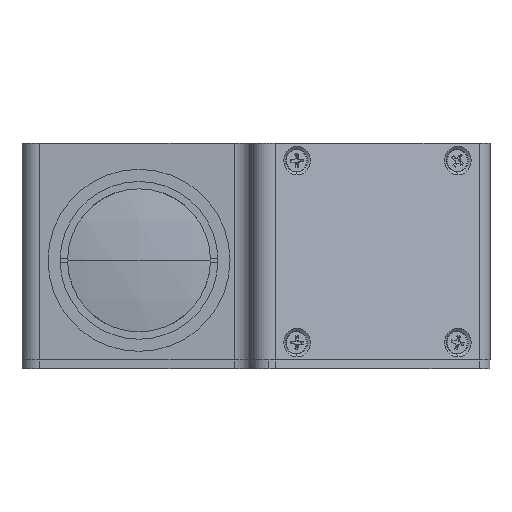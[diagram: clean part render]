
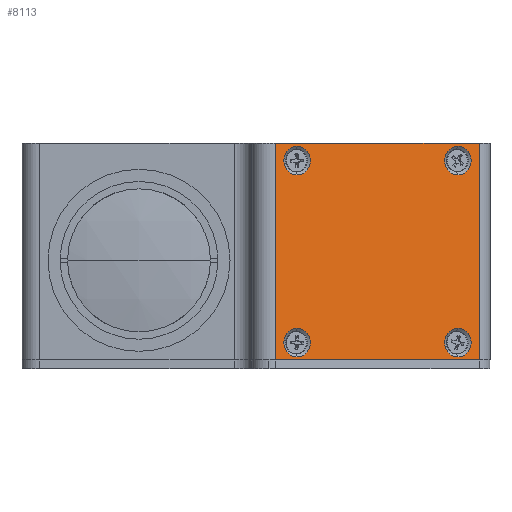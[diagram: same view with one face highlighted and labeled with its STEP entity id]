
A CAD part, left-side view. The second image highlights one B-rep face of the part: STEP entity #8113.
In plain terms, the highlighted planar face has unit normal (-0.927, -0.375, 0).
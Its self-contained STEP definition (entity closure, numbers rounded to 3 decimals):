
#103 = LINE ( 'NONE', #7636, #2807 ) ;
#141 = VERTEX_POINT ( 'NONE', #10943 ) ;
#258 = CARTESIAN_POINT ( 'NONE',  ( 25.939, -36.495, -19. ) ) ;
#388 = VERTEX_POINT ( 'NONE', #11618 ) ;
#543 = AXIS2_PLACEMENT_3D ( 'NONE', #9420, #10579, #3713 ) ;
#618 = CIRCLE ( 'NONE', #2804, 3.3 ) ;
#651 = DIRECTION ( 'NONE',  ( 0., 0., -1. ) ) ;
#758 = VERTEX_POINT ( 'NONE', #13243 ) ;
#841 = AXIS2_PLACEMENT_3D ( 'NONE', #6285, #14300, #7444 ) ;
#1083 = DIRECTION ( 'NONE',  ( 0., 0., 1. ) ) ;
#1415 = PLANE ( 'NONE',  #543 ) ;
#1424 = DIRECTION ( 'NONE',  ( 0., 0., 1. ) ) ;
#1708 = EDGE_CURVE ( 'NONE', #11753, #10468, #103, .T. ) ;
#1901 = EDGE_CURVE ( 'NONE', #11938, #141, #6382, .T. ) ;
#1932 = DIRECTION ( 'NONE',  ( 0., 0., 1. ) ) ;
#2092 = AXIS2_PLACEMENT_3D ( 'NONE', #6241, #14265, #7396 ) ;
#2187 = EDGE_CURVE ( 'NONE', #4565, #10931, #8881, .T. ) ;
#2292 = EDGE_CURVE ( 'NONE', #6637, #9248, #618, .T. ) ;
#2318 = CARTESIAN_POINT ( 'NONE',  ( 25.939, -36.495, -22.3 ) ) ;
#2661 = EDGE_CURVE ( 'NONE', #388, #7370, #4013, .T. ) ;
#2667 = DIRECTION ( 'NONE',  ( -0.927, -0.375, 0. ) ) ;
#2679 = EDGE_CURVE ( 'NONE', #11753, #3305, #9381, .T. ) ;
#2804 = AXIS2_PLACEMENT_3D ( 'NONE', #13128, #6230, #14254 ) ;
#2807 = VECTOR ( 'NONE', #1932, 1000. ) ;
#2947 = EDGE_CURVE ( 'NONE', #758, #10468, #9921, .T. ) ;
#2969 = EDGE_CURVE ( 'NONE', #758, #3305, #3473, .T. ) ;
#3305 = VERTEX_POINT ( 'NONE', #4604 ) ;
#3444 = AXIS2_PLACEMENT_3D ( 'NONE', #258, #8273, #1424 ) ;
#3473 = LINE ( 'NONE', #6375, #9206 ) ;
#3598 = EDGE_LOOP ( 'NONE', ( #5637, #5999 ) ) ;
#3689 = CARTESIAN_POINT ( 'NONE',  ( 40.923, -73.583, 19.7 ) ) ;
#3713 = DIRECTION ( 'NONE',  ( 0., 0., 1. ) ) ;
#3847 = CARTESIAN_POINT ( 'NONE',  ( 42.91, -78.498, -23. ) ) ;
#3921 = CARTESIAN_POINT ( 'NONE',  ( 40.923, -73.583, 23. ) ) ;
#4013 = CIRCLE ( 'NONE', #9195, 3.3 ) ;
#4565 = VERTEX_POINT ( 'NONE', #13555 ) ;
#4604 = CARTESIAN_POINT ( 'NONE',  ( 23.928, -31.516, -23. ) ) ;
#4758 = EDGE_LOOP ( 'NONE', ( #8003, #8509 ) ) ;
#4906 = FACE_OUTER_BOUND ( 'NONE', #11812, .T. ) ;
#4913 = EDGE_CURVE ( 'NONE', #7370, #388, #9900, .T. ) ;
#4986 = AXIS2_PLACEMENT_3D ( 'NONE', #5255, #13295, #6401 ) ;
#5065 = EDGE_LOOP ( 'NONE', ( #9954, #10511 ) ) ;
#5090 = DIRECTION ( 'NONE',  ( 0., 0., 1. ) ) ;
#5255 = CARTESIAN_POINT ( 'NONE',  ( 25.939, -36.495, 23. ) ) ;
#5273 = FACE_BOUND ( 'NONE', #5065, .T. ) ;
#5637 = ORIENTED_EDGE ( 'NONE', *, *, #2661, .F. ) ;
#5999 = ORIENTED_EDGE ( 'NONE', *, *, #4913, .F. ) ;
#6230 = DIRECTION ( 'NONE',  ( -0.927, -0.375, 0. ) ) ;
#6241 = CARTESIAN_POINT ( 'NONE',  ( 40.923, -73.583, -19. ) ) ;
#6285 = CARTESIAN_POINT ( 'NONE',  ( 25.939, -36.495, -19. ) ) ;
#6375 = CARTESIAN_POINT ( 'NONE',  ( 23.928, -31.516, 2. ) ) ;
#6382 = CIRCLE ( 'NONE', #4986, 3.3 ) ;
#6401 = DIRECTION ( 'NONE',  ( 0., 0., 1. ) ) ;
#6532 = VECTOR ( 'NONE', #12143, 1000. ) ;
#6637 = VERTEX_POINT ( 'NONE', #10264 ) ;
#7370 = VERTEX_POINT ( 'NONE', #3689 ) ;
#7394 = AXIS2_PLACEMENT_3D ( 'NONE', #14795, #7944, #1083 ) ;
#7396 = DIRECTION ( 'NONE',  ( 0., 0., 1. ) ) ;
#7444 = DIRECTION ( 'NONE',  ( 0., 0., 1. ) ) ;
#7636 = CARTESIAN_POINT ( 'NONE',  ( 42.91, -78.498, 2. ) ) ;
#7944 = DIRECTION ( 'NONE',  ( -0.927, -0.375, 0. ) ) ;
#8003 = ORIENTED_EDGE ( 'NONE', *, *, #2292, .F. ) ;
#8113 = ADVANCED_FACE ( 'NONE', ( #13714, #11017, #10631, #5273, #4906 ), #1415, .T. ) ;
#8200 = CARTESIAN_POINT ( 'NONE',  ( 40.923, -73.583, -22.3 ) ) ;
#8218 = CIRCLE ( 'NONE', #2092, 3.3 ) ;
#8273 = DIRECTION ( 'NONE',  ( -0.927, -0.375, 0. ) ) ;
#8509 = ORIENTED_EDGE ( 'NONE', *, *, #10183, .F. ) ;
#8857 = CARTESIAN_POINT ( 'NONE',  ( 25.939, -36.495, 26.3 ) ) ;
#8881 = CIRCLE ( 'NONE', #3444, 3.3 ) ;
#9002 = ORIENTED_EDGE ( 'NONE', *, *, #2187, .F. ) ;
#9195 = AXIS2_PLACEMENT_3D ( 'NONE', #9505, #2667, #10675 ) ;
#9206 = VECTOR ( 'NONE', #651, 1000. ) ;
#9230 = CARTESIAN_POINT ( 'NONE',  ( 42.91, -78.498, 27. ) ) ;
#9248 = VERTEX_POINT ( 'NONE', #8200 ) ;
#9275 = CIRCLE ( 'NONE', #841, 3.3 ) ;
#9381 = LINE ( 'NONE', #11941, #12148 ) ;
#9420 = CARTESIAN_POINT ( 'NONE',  ( 33.562, -55.363, 2. ) ) ;
#9505 = CARTESIAN_POINT ( 'NONE',  ( 40.923, -73.583, 23. ) ) ;
#9763 = ORIENTED_EDGE ( 'NONE', *, *, #14379, .F. ) ;
#9900 = CIRCLE ( 'NONE', #14367, 3.3 ) ;
#9921 = LINE ( 'NONE', #10945, #6532 ) ;
#9954 = ORIENTED_EDGE ( 'NONE', *, *, #1901, .F. ) ;
#10183 = EDGE_CURVE ( 'NONE', #9248, #6637, #8218, .T. ) ;
#10264 = CARTESIAN_POINT ( 'NONE',  ( 40.923, -73.583, -15.7 ) ) ;
#10468 = VERTEX_POINT ( 'NONE', #9230 ) ;
#10481 = EDGE_LOOP ( 'NONE', ( #9002, #9763 ) ) ;
#10511 = ORIENTED_EDGE ( 'NONE', *, *, #12039, .F. ) ;
#10579 = DIRECTION ( 'NONE',  ( -0.927, -0.375, 0. ) ) ;
#10631 = FACE_BOUND ( 'NONE', #10481, .T. ) ;
#10675 = DIRECTION ( 'NONE',  ( 0., 0., 1. ) ) ;
#10725 = DIRECTION ( 'NONE',  ( -0.375, 0.927, 0. ) ) ;
#10931 = VERTEX_POINT ( 'NONE', #2318 ) ;
#10943 = CARTESIAN_POINT ( 'NONE',  ( 25.939, -36.495, 19.7 ) ) ;
#10945 = CARTESIAN_POINT ( 'NONE',  ( 45.419, -84.709, 27. ) ) ;
#11017 = FACE_BOUND ( 'NONE', #4758, .T. ) ;
#11407 = ORIENTED_EDGE ( 'NONE', *, *, #2679, .F. ) ;
#11618 = CARTESIAN_POINT ( 'NONE',  ( 40.923, -73.583, 26.3 ) ) ;
#11753 = VERTEX_POINT ( 'NONE', #3847 ) ;
#11812 = EDGE_LOOP ( 'NONE', ( #11407, #12519, #12888, #13532 ) ) ;
#11938 = VERTEX_POINT ( 'NONE', #8857 ) ;
#11941 = CARTESIAN_POINT ( 'NONE',  ( 45.419, -84.709, -23. ) ) ;
#12012 = DIRECTION ( 'NONE',  ( -0.927, -0.375, 0. ) ) ;
#12039 = EDGE_CURVE ( 'NONE', #141, #11938, #14191, .T. ) ;
#12143 = DIRECTION ( 'NONE',  ( 0.375, -0.927, 0. ) ) ;
#12148 = VECTOR ( 'NONE', #10725, 1000. ) ;
#12519 = ORIENTED_EDGE ( 'NONE', *, *, #1708, .T. ) ;
#12888 = ORIENTED_EDGE ( 'NONE', *, *, #2947, .F. ) ;
#13128 = CARTESIAN_POINT ( 'NONE',  ( 40.923, -73.583, -19. ) ) ;
#13243 = CARTESIAN_POINT ( 'NONE',  ( 23.928, -31.516, 27. ) ) ;
#13295 = DIRECTION ( 'NONE',  ( -0.927, -0.375, 0. ) ) ;
#13532 = ORIENTED_EDGE ( 'NONE', *, *, #2969, .T. ) ;
#13555 = CARTESIAN_POINT ( 'NONE',  ( 25.939, -36.495, -15.7 ) ) ;
#13714 = FACE_BOUND ( 'NONE', #3598, .T. ) ;
#14191 = CIRCLE ( 'NONE', #7394, 3.3 ) ;
#14254 = DIRECTION ( 'NONE',  ( 0., 0., 1. ) ) ;
#14265 = DIRECTION ( 'NONE',  ( -0.927, -0.375, 0. ) ) ;
#14300 = DIRECTION ( 'NONE',  ( -0.927, -0.375, 0. ) ) ;
#14367 = AXIS2_PLACEMENT_3D ( 'NONE', #3921, #12012, #5090 ) ;
#14379 = EDGE_CURVE ( 'NONE', #10931, #4565, #9275, .T. ) ;
#14795 = CARTESIAN_POINT ( 'NONE',  ( 25.939, -36.495, 23. ) ) ;
